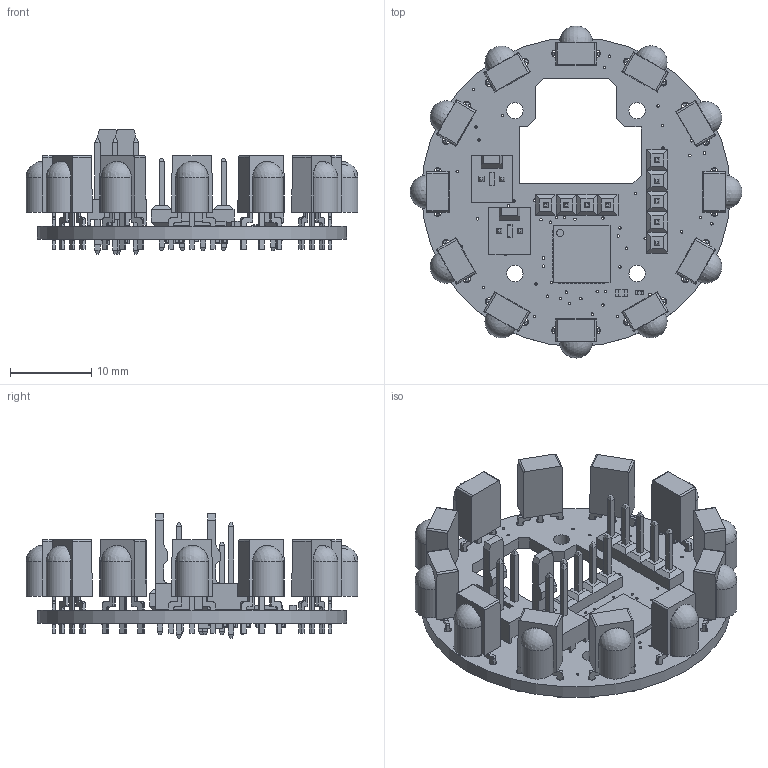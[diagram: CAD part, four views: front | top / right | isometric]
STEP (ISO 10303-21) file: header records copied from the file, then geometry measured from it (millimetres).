
FILE_DESCRIPTION(/* description */ (''),/* implementation_level */ '2;1');
FILE_NAME(/* name */ 'C:/Users/priba/Documents/Temp/mrm-ir-finder2.step',/* time_stamp */ '2019-11-01T23:21:00+01:00',/* author */ (''),/* organization */ (''),/* preprocessor_version */ 'ST-DEVELOPER v18',/* originating_system */ 'Autodesk Translation Framework v8.9.1.1155',/* authorisation */ '');
FILE_SCHEMA (('AUTOMOTIVE_DESIGN { 1 0 10303 214 3 1 1 }'));
Length unit declared in the file: millimetre
Products named in the file (20): mrm-ir-finder2; PCB Component; Board; 100 nF; STM32F071C8U6; Body; ThermalPin; PinsArrayLR; PinsArrayTB; MOLEX_22-27-2021; TOSHIBA_SSM3J338R,LFSOT23; CHIPLED_0402; 1.5 kOhm; 10 kOhm; 1X05; 1X04; VISHAY_TSSP58038; GO-100187; GO-100187 (1); FIDUCIAL1X2
Assembly tree (41 placements, depth 4):
  mrm-ir-finder2
    PCB Component
      Board
      100 nF  x6
      STM32F071C8U6
        Body
        ThermalPin
        PinsArrayLR
        PinsArrayTB
      MOLEX_22-27-2021  x2
      TOSHIBA_SSM3J338R,LFSOT23
      CHIPLED_0402
      1.5 kOhm
      10 kOhm
      1X05
      1X04
      VISHAY_TSSP58038  x12
        GO-100187
        GO-100187 (1)
      FIDUCIAL1X2  x6
Bounding box: 40.8 x 40.8 x 15.26 mm (x, y, z)
Volume: 3462 mm3; surface area: 5932.1 mm2
Topology: 124 solids, 124 shells, 2258 faces, 5607 edges, 3556 vertices
Faces by surface type: plane 1444, cylinder 682, sphere 100, bspline 32
Full cylindrical faces by diameter (mm): 0.3 x60, 0.875 x1, 0.9 x36, 1.016 x9, 1.11 x4, 2 x4, 38 x1
Entity records: 37520 total; most frequent: CARTESIAN_POINT 8158, ORIENTED_EDGE 5694, DIRECTION 5597, EDGE_CURVE 2847, LINE 1973, VECTOR 1973, VERTEX_POINT 1832, AXIS2_PLACEMENT_3D 1812
